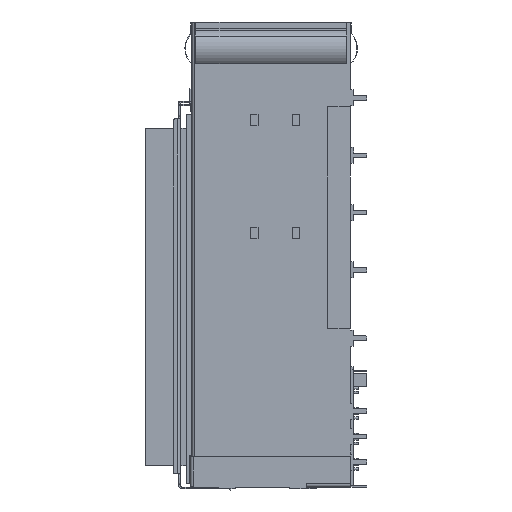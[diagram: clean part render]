
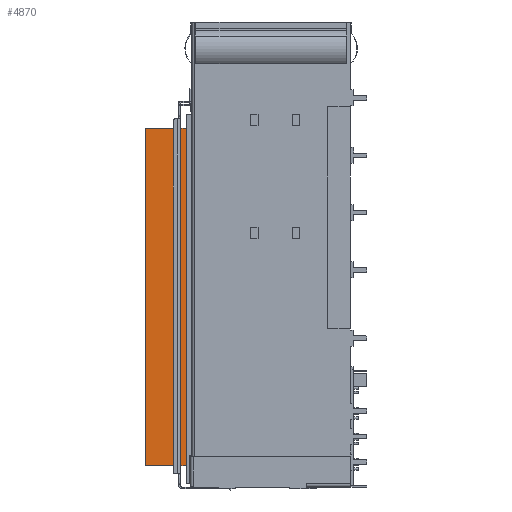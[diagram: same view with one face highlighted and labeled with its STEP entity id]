
A CAD part, left-side view. The second image highlights one B-rep face of the part: STEP entity #4870.
In plain terms, the highlighted planar face has unit normal (-1, 0, 0).
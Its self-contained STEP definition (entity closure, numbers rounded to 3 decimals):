
#2609=FACE_OUTER_BOUND('',#9120,.T.);
#4870=ADVANCED_FACE('',(#2609),#6503,.T.);
#6503=PLANE('',#43326);
#9120=EDGE_LOOP('',(#27450,#27451,#27452,#27453));
#11931=LINE('',#56928,#15777);
#14469=LINE('',#65159,#18315);
#14503=LINE('',#65232,#18349);
#14504=LINE('',#65233,#18350);
#15777=VECTOR('',#44790,1.);
#18315=VECTOR('',#52902,1.);
#18349=VECTOR('',#52956,1.);
#18350=VECTOR('',#52957,1.);
#27450=ORIENTED_EDGE('',*,*,#34915,.F.);
#27451=ORIENTED_EDGE('',*,*,#38817,.F.);
#27452=ORIENTED_EDGE('',*,*,#38783,.F.);
#27453=ORIENTED_EDGE('',*,*,#38818,.F.);
#31193=VERTEX_POINT('',#56923);
#31195=VERTEX_POINT('',#56927);
#33745=VERTEX_POINT('',#65158);
#33746=VERTEX_POINT('',#65160);
#34915=EDGE_CURVE('',#31195,#31193,#11931,.T.);
#38783=EDGE_CURVE('',#33745,#33746,#14469,.T.);
#38817=EDGE_CURVE('',#33746,#31195,#14503,.T.);
#38818=EDGE_CURVE('',#31193,#33745,#14504,.T.);
#43326=AXIS2_PLACEMENT_3D('',#65234,#52958,#52959);
#44790=DIRECTION('',(0.,0.,-1.));
#52902=DIRECTION('',(0.,0.,1.));
#52956=DIRECTION('',(0.,-1.,0.));
#52957=DIRECTION('',(0.,1.,0.));
#52958=DIRECTION('',(-1.,0.,0.));
#52959=DIRECTION('',(0.,-1.,0.));
#56923=CARTESIAN_POINT('',(-16.95,25.8,-69.64));
#56927=CARTESIAN_POINT('',(-16.95,25.8,-16.64));
#56928=CARTESIAN_POINT('',(-16.95,25.8,-58.725));
#65158=CARTESIAN_POINT('',(-16.95,32.2,-69.64));
#65159=CARTESIAN_POINT('',(-16.95,32.2,-33.045));
#65160=CARTESIAN_POINT('',(-16.95,32.2,-16.64));
#65232=CARTESIAN_POINT('',(-16.95,29.4,-16.64));
#65233=CARTESIAN_POINT('',(-16.95,25.8,-69.64));
#65234=CARTESIAN_POINT('',(-16.95,25.8,-78.062));
